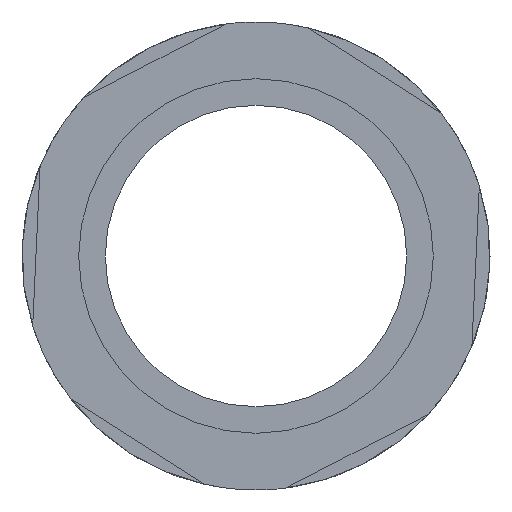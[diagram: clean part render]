
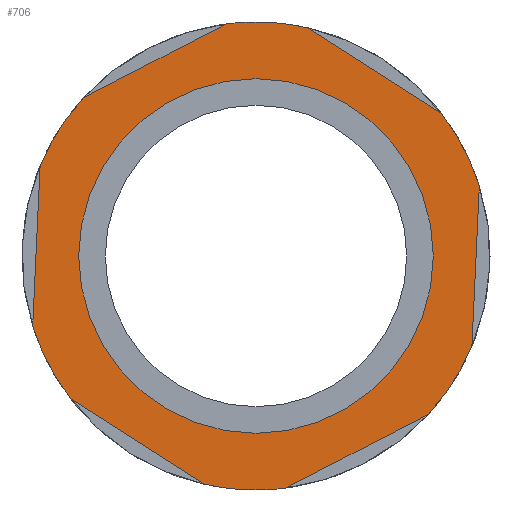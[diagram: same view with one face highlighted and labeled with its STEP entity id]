
A CAD part, front view. The second image highlights one B-rep face of the part: STEP entity #706.
In plain terms, the highlighted planar face has unit normal (0, -1, 0).
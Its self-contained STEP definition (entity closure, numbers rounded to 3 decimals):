
#22 = CARTESIAN_POINT ( 'NONE',  ( -1.65, 0., -35.758 ) ) ;
#61 = DIRECTION ( 'NONE',  ( 0., 0., 1. ) ) ;
#89 = VERTEX_POINT ( 'NONE', #606 ) ;
#102 = EDGE_CURVE ( 'NONE', #404, #578, #1164, .T. ) ;
#130 = DIRECTION ( 'NONE',  ( 0., 0., 1. ) ) ;
#151 = VECTOR ( 'NONE', #1883, 1000. ) ;
#162 = CIRCLE ( 'NONE', #889, 33. ) ;
#169 = DIRECTION ( 'NONE',  ( 0., 1., 0. ) ) ;
#208 = AXIS2_PLACEMENT_3D ( 'NONE', #292, #1345, #2011 ) ;
#210 = DIRECTION ( 'NONE',  ( -0.046, 0., -0.999 ) ) ;
#230 = DIRECTION ( 'NONE',  ( 0., 0., 1. ) ) ;
#251 = CARTESIAN_POINT ( 'NONE',  ( 26.248, 0., 20.002 ) ) ;
#261 = VERTEX_POINT ( 'NONE', #1852 ) ;
#292 = CARTESIAN_POINT ( 'NONE',  ( 0., 0., 0. ) ) ;
#315 = LINE ( 'NONE', #1365, #637 ) ;
#328 = VERTEX_POINT ( 'NONE', #496 ) ;
#330 = EDGE_CURVE ( 'NONE', #328, #516, #1675, .T. ) ;
#333 = CARTESIAN_POINT ( 'NONE',  ( 0., 0., 0. ) ) ;
#338 = ORIENTED_EDGE ( 'NONE', *, *, #330, .F. ) ;
#344 = DIRECTION ( 'NONE',  ( 0., 0., 1. ) ) ;
#388 = ORIENTED_EDGE ( 'NONE', *, *, #1655, .F. ) ;
#404 = VERTEX_POINT ( 'NONE', #690 ) ;
#413 = CARTESIAN_POINT ( 'NONE',  ( 0., 0., 0. ) ) ;
#420 = DIRECTION ( 'NONE',  ( 0.888, 0., 0.46 ) ) ;
#438 = AXIS2_PLACEMENT_3D ( 'NONE', #1433, #1786, #230 ) ;
#442 = CARTESIAN_POINT ( 'NONE',  ( 31.488, 0., 9.873 ) ) ;
#489 = EDGE_CURVE ( 'NONE', #1649, #858, #1983, .T. ) ;
#494 = DIRECTION ( 'NONE',  ( 0., 0., 1. ) ) ;
#496 = CARTESIAN_POINT ( 'NONE',  ( 7.194, 0., 32.206 ) ) ;
#508 = AXIS2_PLACEMENT_3D ( 'NONE', #991, #1856, #2209 ) ;
#516 = VERTEX_POINT ( 'NONE', #251 ) ;
#522 = DIRECTION ( 'NONE',  ( 0.046, 0., 0.999 ) ) ;
#541 = DIRECTION ( 'NONE',  ( 0., 1., 0. ) ) ;
#557 = EDGE_LOOP ( 'NONE', ( #1679, #1245 ) ) ;
#578 = VERTEX_POINT ( 'NONE', #1600 ) ;
#606 = CARTESIAN_POINT ( 'NONE',  ( 24.295, 0., -22.333 ) ) ;
#612 = EDGE_CURVE ( 'NONE', #1157, #1649, #1546, .T. ) ;
#619 = CIRCLE ( 'NONE', #1799, 33. ) ;
#637 = VECTOR ( 'NONE', #522, 1000. ) ;
#641 = EDGE_CURVE ( 'NONE', #2048, #89, #2187, .T. ) ;
#643 = DIRECTION ( 'NONE',  ( 0., 0., 1. ) ) ;
#646 = ORIENTED_EDGE ( 'NONE', *, *, #1709, .F. ) ;
#690 = CARTESIAN_POINT ( 'NONE',  ( -4.198, 0., 32.732 ) ) ;
#696 = VERTEX_POINT ( 'NONE', #1319 ) ;
#706 = ADVANCED_FACE ( 'NONE', ( #1119, #1710 ), #1680, .F. ) ;
#735 = CIRCLE ( 'NONE', #1884, 33. ) ;
#789 = DIRECTION ( 'NONE',  ( 0., 1., 0. ) ) ;
#796 = AXIS2_PLACEMENT_3D ( 'NONE', #1831, #982, #643 ) ;
#813 = CIRCLE ( 'NONE', #1473, 25. ) ;
#831 = CARTESIAN_POINT ( 'NONE',  ( 30.142, 0., -19.307 ) ) ;
#832 = CIRCLE ( 'NONE', #2071, 33. ) ;
#842 = VERTEX_POINT ( 'NONE', #1817 ) ;
#846 = DIRECTION ( 'NONE',  ( 0., 1., 0. ) ) ;
#853 = CARTESIAN_POINT ( 'NONE',  ( 1.65, 0., 35.758 ) ) ;
#858 = VERTEX_POINT ( 'NONE', #2220 ) ;
#859 = LINE ( 'NONE', #831, #1438 ) ;
#889 = AXIS2_PLACEMENT_3D ( 'NONE', #1629, #789, #2169 ) ;
#916 = VECTOR ( 'NONE', #1220, 1000. ) ;
#922 = LINE ( 'NONE', #1556, #2082 ) ;
#980 = AXIS2_PLACEMENT_3D ( 'NONE', #1553, #541, #130 ) ;
#982 = DIRECTION ( 'NONE',  ( 0., 1., 0. ) ) ;
#989 = CARTESIAN_POINT ( 'NONE',  ( 0., 0., 0. ) ) ;
#991 = CARTESIAN_POINT ( 'NONE',  ( 0., 0., 0. ) ) ;
#1029 = CARTESIAN_POINT ( 'NONE',  ( 30.446, 0., -12.73 ) ) ;
#1031 = EDGE_CURVE ( 'NONE', #516, #1442, #832, .T. ) ;
#1045 = CARTESIAN_POINT ( 'NONE',  ( -7.194, 0., -32.206 ) ) ;
#1050 = EDGE_CURVE ( 'NONE', #696, #1219, #315, .T. ) ;
#1052 = CARTESIAN_POINT ( 'NONE',  ( 0., 0., -25. ) ) ;
#1085 = CARTESIAN_POINT ( 'NONE',  ( 0., 0., 25. ) ) ;
#1103 = ORIENTED_EDGE ( 'NONE', *, *, #1459, .F. ) ;
#1104 = VERTEX_POINT ( 'NONE', #1085 ) ;
#1119 = FACE_OUTER_BOUND ( 'NONE', #1761, .T. ) ;
#1157 = VERTEX_POINT ( 'NONE', #2112 ) ;
#1164 = CIRCLE ( 'NONE', #2038, 33. ) ;
#1219 = VERTEX_POINT ( 'NONE', #1959 ) ;
#1220 = DIRECTION ( 'NONE',  ( -0.842, 0., 0.539 ) ) ;
#1227 = ORIENTED_EDGE ( 'NONE', *, *, #1050, .F. ) ;
#1235 = EDGE_CURVE ( 'NONE', #2128, #1104, #813, .T. ) ;
#1245 = ORIENTED_EDGE ( 'NONE', *, *, #1322, .T. ) ;
#1259 = DIRECTION ( 'NONE',  ( 0., 1., 0. ) ) ;
#1279 = CARTESIAN_POINT ( 'NONE',  ( -30.142, 0., 19.307 ) ) ;
#1319 = CARTESIAN_POINT ( 'NONE',  ( -31.488, 0., -9.873 ) ) ;
#1322 = EDGE_CURVE ( 'NONE', #1104, #2128, #1469, .T. ) ;
#1345 = DIRECTION ( 'NONE',  ( 0., 1., 0. ) ) ;
#1365 = CARTESIAN_POINT ( 'NONE',  ( -31.792, 0., -16.45 ) ) ;
#1433 = CARTESIAN_POINT ( 'NONE',  ( 0., 0., 0. ) ) ;
#1438 = VECTOR ( 'NONE', #1498, 1000. ) ;
#1442 = VERTEX_POINT ( 'NONE', #442 ) ;
#1451 = EDGE_CURVE ( 'NONE', #261, #404, #2144, .T. ) ;
#1459 = EDGE_CURVE ( 'NONE', #578, #328, #619, .T. ) ;
#1469 = CIRCLE ( 'NONE', #980, 25. ) ;
#1473 = AXIS2_PLACEMENT_3D ( 'NONE', #989, #846, #2201 ) ;
#1484 = ORIENTED_EDGE ( 'NONE', *, *, #1897, .F. ) ;
#1498 = DIRECTION ( 'NONE',  ( -0.888, 0., -0.46 ) ) ;
#1546 = CIRCLE ( 'NONE', #796, 33. ) ;
#1549 = CIRCLE ( 'NONE', #438, 33. ) ;
#1553 = CARTESIAN_POINT ( 'NONE',  ( 0., 0., 0. ) ) ;
#1556 = CARTESIAN_POINT ( 'NONE',  ( 31.792, 0., 16.45 ) ) ;
#1600 = CARTESIAN_POINT ( 'NONE',  ( 0., 0., 33. ) ) ;
#1629 = CARTESIAN_POINT ( 'NONE',  ( 0., 0., 0. ) ) ;
#1632 = DIRECTION ( 'NONE',  ( 0., 1., 0. ) ) ;
#1635 = DIRECTION ( 'NONE',  ( 0., 0., 1. ) ) ;
#1637 = ORIENTED_EDGE ( 'NONE', *, *, #1451, .F. ) ;
#1649 = VERTEX_POINT ( 'NONE', #1045 ) ;
#1655 = EDGE_CURVE ( 'NONE', #1442, #2048, #922, .T. ) ;
#1672 = ORIENTED_EDGE ( 'NONE', *, *, #489, .F. ) ;
#1675 = LINE ( 'NONE', #853, #151 ) ;
#1679 = ORIENTED_EDGE ( 'NONE', *, *, #1235, .T. ) ;
#1680 = PLANE ( 'NONE',  #208 ) ;
#1681 = ORIENTED_EDGE ( 'NONE', *, *, #1738, .F. ) ;
#1709 = EDGE_CURVE ( 'NONE', #858, #696, #1549, .T. ) ;
#1710 = FACE_BOUND ( 'NONE', #557, .T. ) ;
#1738 = EDGE_CURVE ( 'NONE', #842, #1157, #735, .T. ) ;
#1761 = EDGE_LOOP ( 'NONE', ( #2130, #388, #2170, #338, #1103, #2065, #1637, #1484, #1227, #646, #1672, #2037, #1681, #1986 ) ) ;
#1786 = DIRECTION ( 'NONE',  ( 0., 1., 0. ) ) ;
#1795 = CARTESIAN_POINT ( 'NONE',  ( 0., 0., 0. ) ) ;
#1799 = AXIS2_PLACEMENT_3D ( 'NONE', #2051, #169, #494 ) ;
#1817 = CARTESIAN_POINT ( 'NONE',  ( 4.198, 0., -32.732 ) ) ;
#1831 = CARTESIAN_POINT ( 'NONE',  ( 0., 0., 0. ) ) ;
#1852 = CARTESIAN_POINT ( 'NONE',  ( -24.295, 0., 22.333 ) ) ;
#1856 = DIRECTION ( 'NONE',  ( 0., 1., 0. ) ) ;
#1883 = DIRECTION ( 'NONE',  ( 0.842, 0., -0.539 ) ) ;
#1884 = AXIS2_PLACEMENT_3D ( 'NONE', #413, #1259, #61 ) ;
#1897 = EDGE_CURVE ( 'NONE', #1219, #261, #162, .T. ) ;
#1959 = CARTESIAN_POINT ( 'NONE',  ( -30.446, 0., 12.73 ) ) ;
#1971 = VECTOR ( 'NONE', #420, 1000. ) ;
#1983 = LINE ( 'NONE', #22, #916 ) ;
#1985 = EDGE_CURVE ( 'NONE', #89, #842, #859, .T. ) ;
#1986 = ORIENTED_EDGE ( 'NONE', *, *, #1985, .F. ) ;
#2011 = DIRECTION ( 'NONE',  ( 0., 0., 1. ) ) ;
#2037 = ORIENTED_EDGE ( 'NONE', *, *, #612, .F. ) ;
#2038 = AXIS2_PLACEMENT_3D ( 'NONE', #1795, #1632, #1635 ) ;
#2048 = VERTEX_POINT ( 'NONE', #1029 ) ;
#2051 = CARTESIAN_POINT ( 'NONE',  ( 0., 0., 0. ) ) ;
#2065 = ORIENTED_EDGE ( 'NONE', *, *, #102, .F. ) ;
#2071 = AXIS2_PLACEMENT_3D ( 'NONE', #333, #2242, #344 ) ;
#2082 = VECTOR ( 'NONE', #210, 1000. ) ;
#2112 = CARTESIAN_POINT ( 'NONE',  ( 0., 0., -33. ) ) ;
#2128 = VERTEX_POINT ( 'NONE', #1052 ) ;
#2130 = ORIENTED_EDGE ( 'NONE', *, *, #641, .F. ) ;
#2144 = LINE ( 'NONE', #1279, #1971 ) ;
#2169 = DIRECTION ( 'NONE',  ( 0., 0., 1. ) ) ;
#2170 = ORIENTED_EDGE ( 'NONE', *, *, #1031, .F. ) ;
#2187 = CIRCLE ( 'NONE', #508, 33. ) ;
#2201 = DIRECTION ( 'NONE',  ( 0., 0., 1. ) ) ;
#2209 = DIRECTION ( 'NONE',  ( 0., 0., 1. ) ) ;
#2220 = CARTESIAN_POINT ( 'NONE',  ( -26.248, 0., -20.002 ) ) ;
#2242 = DIRECTION ( 'NONE',  ( 0., 1., 0. ) ) ;
